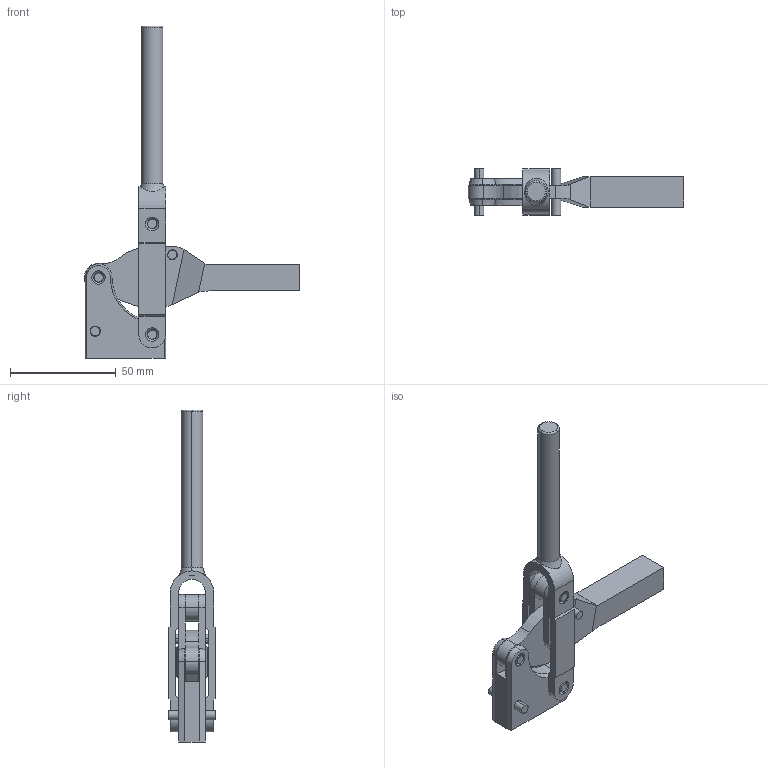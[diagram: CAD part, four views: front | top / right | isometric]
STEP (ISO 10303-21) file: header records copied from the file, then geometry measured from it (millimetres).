
FILE_DESCRIPTION( ( '' ), '1' );
FILE_NAME( 'C:\Documents and Settings\Richard Grenzke\My Documents\Wolverine Company Data\WOLVERINE CD 5_17_05\SOLIDS STEP\hold_down\cq905.stp', ' ', ( '' ), ( '' ), 'ACIS Interop R16', 'Kubotek KeyCreator V5.5.1 (0454)', ' ' );
FILE_SCHEMA( ( 'CONFIG_CONTROL_DESIGN' ) );
Length unit declared in the file: inch
Products named in the file (12): 1; 2; 3; 4; 5; 6; 7; 8; 9; 10; 11; 12
Bounding box: 101.94 x 22.23 x 157.15 mm (x, y, z)
Volume: 45709.1 mm3; surface area: 22814.5 mm2
Topology: 11 solids, 11 shells, 181 faces, 477 edges, 320 vertices
Faces by surface type: cylinder 73, plane 72, cone 30, sphere 4, torus 2
Entity records: 6364 total; most frequent: DIRECTION 1081, CARTESIAN_POINT 1076, ORIENTED_EDGE 954, EDGE_CURVE 477, AXIS2_PLACEMENT_3D 421, VERTEX_POINT 320, LINE 239, VECTOR 239
